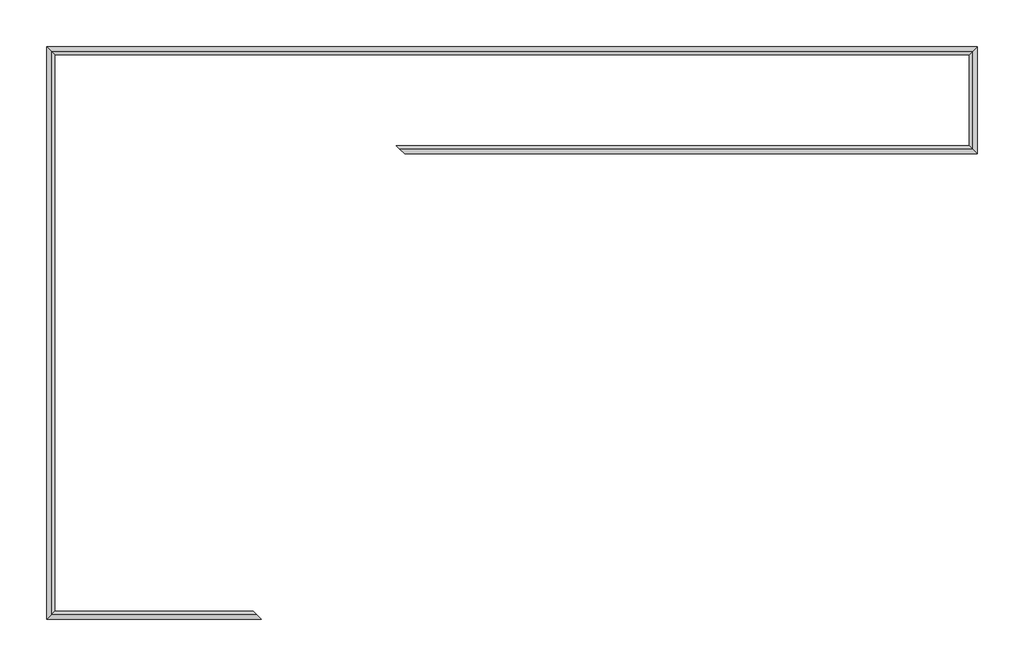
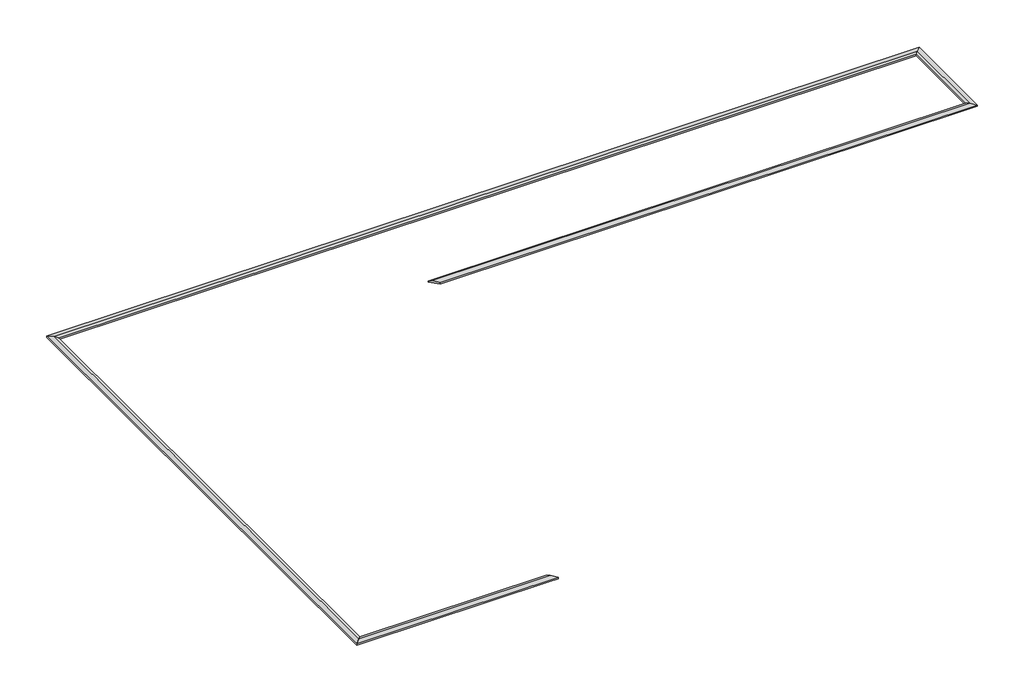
# One storey, incomplete: 5 proxies.
"""IFC4 building model written with IfcOpenShell, lengths in millimetres."""

from ifc_helpers import new_model, si_unit, origin, place, context, project, spatial, faceted_brep, element, save

model = new_model("IFC4")

# Units and contexts
model_context = context("Model", 3, world=origin())
ifc_project = project(units=[si_unit("LENGTHUNIT", "METRE", prefix="MILLI")], contexts=[model_context])

# Site, building, storey
site = spatial("IfcSite", under=ifc_project)
building = spatial("IfcBuilding", under=site)
storey = spatial("IfcBuildingStorey", under=building, Name="05 T.O. Parapet", Elevation=15240.0)

# Proxies
placement = place(None, origin())
element("IfcBuildingElementProxy", 1, Name="Wall Sweeps", at=placement, inside=storey, context=model_context, shape_type="Brep", body=[
    faceted_brep([(-19522.7273699, 9250.1746638, 15303.5), (-19522.7273699, 9250.1746638, 15240.0), (-19167.1273699, 8894.5746638, 15240.0), (-19167.1273699, 8894.5746638, 15303.5), (-19294.1273699, 9021.5746638, 15341.6), (20101.2726301, 9250.1746638, 15303.5), (19872.6726301, 9021.5746638, 15341.6), (19745.6726301, 8894.5746638, 15303.5), (19745.6726301, 8894.5746638, 15240.0), (20101.2726301, 9250.1746638, 15240.0)], [[[0, 1, 2, 3, 4]], [[5, 6, 7, 8, 9]], [[1, 0, 5, 9]], [[2, 1, 9, 8]], [[3, 2, 8, 7]], [[4, 3, 7, 6]], [[0, 4, 6, 5]]]),
])
element("IfcBuildingElementProxy", 2, Name="Wall Sweeps", at=placement, inside=storey, context=model_context, shape_type="Brep", body=[
    faceted_brep([(-19522.7273699, -15133.8253362, 15303.5), (-19522.7273699, -15133.8253362, 15240.0), (-19167.1273699, -14778.2253362, 15240.0), (-19167.1273699, -14778.2253362, 15303.5), (-19294.1273699, -14905.2253362, 15341.6), (-19522.7273699, 9250.1746638, 15303.5), (-19294.1273699, 9021.5746638, 15341.6), (-19167.1273699, 8894.5746638, 15303.5), (-19167.1273699, 8894.5746638, 15240.0), (-19522.7273699, 9250.1746638, 15240.0), (-19522.7273699, 8894.5746638, 15240.0)], [[[0, 1, 2, 3, 4]], [[5, 6, 7, 8, 9]], [[1, 0, 5, 9, 10]], [[2, 1, 10, 9, 8]], [[3, 2, 8, 7]], [[4, 3, 7, 6]], [[0, 4, 6, 5]]]),
])
element("IfcBuildingElementProxy", 3, Name="Wall Sweeps", at=placement, inside=storey, context=model_context, shape_type="Brep", body=[
    faceted_brep([(-4282.7273699, 4678.1746638, 15303.5), (-4511.3273699, 4906.7746638, 15341.6), (-4638.3273699, 5033.7746638, 15303.5), (-4638.3273699, 5033.7746638, 15240.0), (-4282.7273699, 4678.1746638, 15240.0), (20101.2726301, 4678.1746638, 15303.5), (20101.2726301, 4678.1746638, 15240.0), (19745.6726301, 5033.7746638, 15240.0), (19745.6726301, 5033.7746638, 15303.5), (19872.6726301, 4906.7746638, 15341.6)], [[[0, 1, 2, 3, 4]], [[5, 6, 7, 8, 9]], [[1, 0, 5, 9]], [[2, 1, 9, 8]], [[3, 2, 8, 7]], [[4, 3, 7, 6]], [[0, 4, 6, 5]]]),
])
element("IfcBuildingElementProxy", 4, Name="Wall Sweeps", at=placement, inside=storey, context=model_context, shape_type="Brep", body=[
    faceted_brep([(20101.2726301, 4678.1746638, 15303.5), (19872.6726301, 4906.7746638, 15341.6), (19745.6726301, 5033.7746638, 15303.5), (19745.6726301, 5033.7746638, 15240.0), (20101.2726301, 4678.1746638, 15240.0), (20101.2726301, 9250.1746638, 15303.5), (20101.2726301, 9250.1746638, 15240.0), (19745.6726301, 8894.5746638, 15240.0), (19745.6726301, 8894.5746638, 15303.5), (19872.6726301, 9021.5746638, 15341.6), (20101.2726301, 5033.7746638, 15240.0), (20101.2726301, 8894.5746638, 15240.0)], [[[0, 1, 2, 3, 4]], [[5, 6, 7, 8, 9]], [[0, 4, 10, 11, 6, 5]], [[4, 3, 7, 6, 11, 10]], [[3, 2, 8, 7]], [[2, 1, 9, 8]], [[1, 0, 5, 9]]]),
])
element("IfcBuildingElementProxy", 5, Name="Wall Sweeps", at=placement, inside=storey, context=model_context, shape_type="Brep", body=[
    faceted_brep([(-19522.7273699, -15133.8253362, 15303.5), (-19294.1273699, -14905.2253362, 15341.6), (-19167.1273699, -14778.2253362, 15303.5), (-19167.1273699, -14778.2253362, 15240.0), (-19522.7273699, -15133.8253362, 15240.0), (-10378.7273699, -15133.8253362, 15303.5), (-10378.7273699, -15133.8253362, 15240.0), (-10734.3273699, -14778.2253362, 15240.0), (-10734.3273699, -14778.2253362, 15303.5), (-10607.3273699, -14905.2253362, 15341.6), (-10734.3273699, -15133.8253362, 15240.0), (-19167.1273699, -15133.8253362, 15240.0)], [[[0, 1, 2, 3, 4]], [[5, 6, 7, 8, 9]], [[1, 0, 5, 9]], [[2, 1, 9, 8]], [[3, 2, 8, 7]], [[4, 3, 7, 6, 10, 11]], [[0, 4, 11, 10, 6, 5]]]),
])

save(model, "model.ifc")
